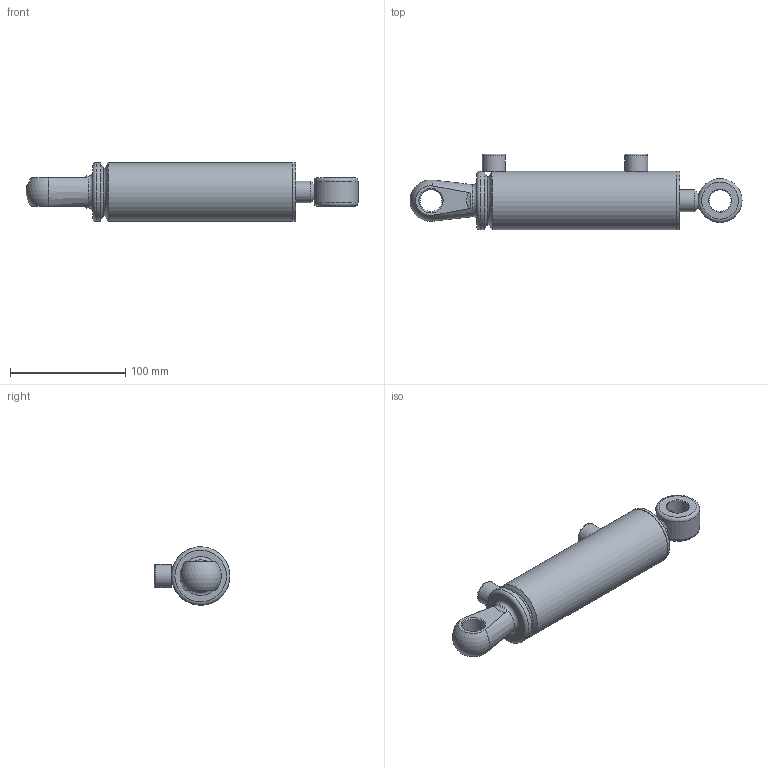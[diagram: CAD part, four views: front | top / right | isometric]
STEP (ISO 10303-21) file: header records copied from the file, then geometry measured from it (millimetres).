
FILE_DESCRIPTION(/* description */ ('Alibre Inc.'),/* implementation_level */ '2;1');
FILE_NAME(/* name */ 'export0',/* time_stamp */ '2016-08-16T09:40:35+12:00',/* author */ (''),/* organization */ (''),/* preprocessor_version */ 'ST-DEVELOPER v14',/* originating_system */ 'Alibre',/* authorisation */ '');
FILE_SCHEMA (('AUTOMOTIVE_DESIGN'));
Length unit declared in the file: centimetre
Bounding box: 288.28 x 65.8 x 50.8 mm (x, y, z)
Volume: 311735.1 mm3; surface area: 99158.6 mm2
Topology: 11 solids, 11 shells, 109 faces, 207 edges, 128 vertices
Faces by surface type: cylinder 38, plane 37, cone 21, torus 10, bspline 2, sphere 1
Full cylindrical faces by diameter (mm): 3 x2, 5.588 x1, 11.9 x2, 14.33 x2, 19.05 x3, 19.1 x2, 19.6 x1, 20 x2, 22.86 x1, 25.42 x1, 25.705 x1, 25.9 x1, 31.85 x1, 31.92 x1, 33.884 x1, 35.56 x1, 37.44 x3, 38 x3, 38.1 x2, 41.148 x1, 41.275 x2, 43.646 x1, 50.8 x3
Entity records: 3066 total; most frequent: CARTESIAN_POINT 989, DIRECTION 393, ORIENTED_EDGE 234, AXIS2_PLACEMENT_3D 218, EDGE_LOOP 204, FACE_BOUND 204, EDGE_CURVE 117, VERTEX_POINT 113
